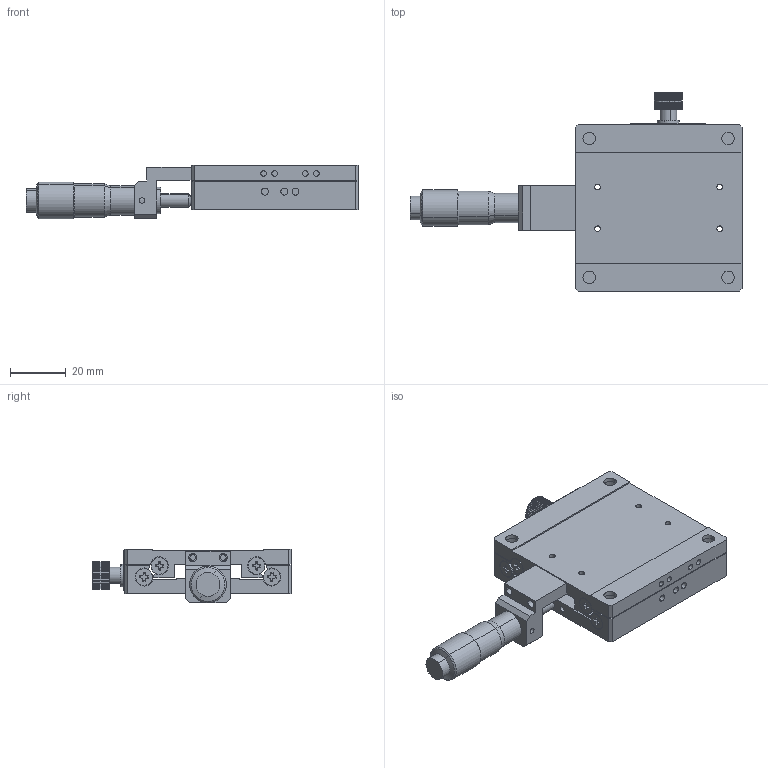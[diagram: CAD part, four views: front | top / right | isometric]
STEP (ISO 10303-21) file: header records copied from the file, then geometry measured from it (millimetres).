
FILE_DESCRIPTION (( 'STEP AP203' ), '1' );
FILE_NAME ('JX-60C-16H.STEP', '2023-03-15T10:30:59', ( '微软用户' ), ( '微软中国' ), 'SwSTEP 2.0', 'SolidWorks 2018', '' );
FILE_SCHEMA (( 'CONFIG_CONTROL_DESIGN' ));
Length unit declared in the file: millimetre
Products named in the file (9): JX-60-02 狟裔; JX-60蹟佪; JX-60-01 奻裔; JX-60C-16H; JALB-72-R(0-13埴芛ロ煦喜); FC-NB-10 内六角滚花螺丝 （直纹）; JCX-80(H18)菜え; JX-40-06 C千分尺固定块; JX-40-05 癹弇え
Assembly tree (15 placements, depth 2):
  JX-60C-16H
    JX-60-02 狟裔
    JX-60-01 奻裔
    JX-60蹟佪  x8
    JX-40-06 C千分尺固定块
    JALB-72-R(0-13埴芛ロ煦喜)
    FC-NB-10 内六角滚花螺丝 （直纹）
    JCX-80(H18)菜え
    JX-40-05 癹弇え
Bounding box: 119.5 x 71.5 x 19.3 mm (x, y, z)
Volume: 52232.4 mm3; surface area: 29101.1 mm2
Topology: 15 solids, 15 shells, 682 faces, 1743 edges, 1147 vertices
Faces by surface type: cylinder 393, plane 263, cone 22, sphere 4
Entity records: 18416 total; most frequent: DIRECTION 3265, CARTESIAN_POINT 3122, ORIENTED_EDGE 2798, EDGE_CURVE 1399, AXIS2_PLACEMENT_3D 1314, VERTEX_POINT 923, CIRCLE 754, EDGE_LOOP 664
